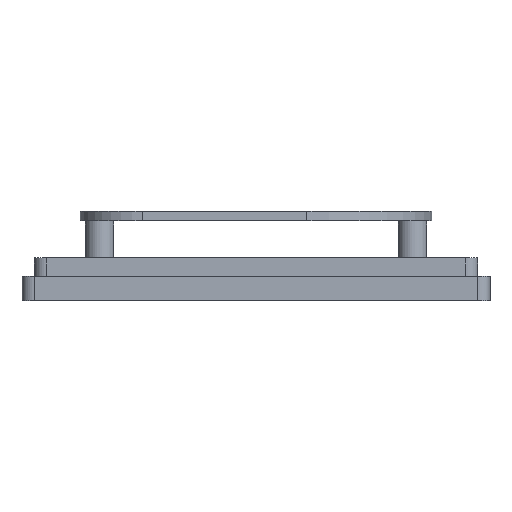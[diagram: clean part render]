
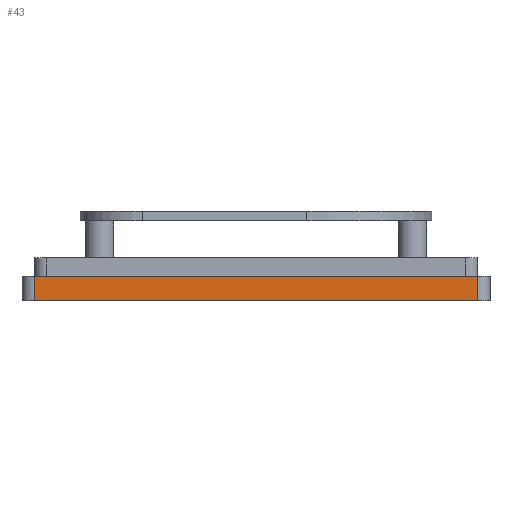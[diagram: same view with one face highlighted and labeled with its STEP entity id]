
A CAD part, left-side view. The second image highlights one B-rep face of the part: STEP entity #43.
In plain terms, the highlighted planar face has unit normal (-1, 0, 0).
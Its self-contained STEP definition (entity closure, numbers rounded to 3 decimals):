
#43 = ADVANCED_FACE('',(#44),#58,.F.);
#44 = FACE_BOUND('',#45,.F.);
#45 = EDGE_LOOP('',(#46,#81,#109,#137));
#46 = ORIENTED_EDGE('',*,*,#47,.F.);
#47 = EDGE_CURVE('',#48,#50,#52,.T.);
#48 = VERTEX_POINT('',#49);
#49 = CARTESIAN_POINT('',(-60.,-36.,4.));
#50 = VERTEX_POINT('',#51);
#51 = CARTESIAN_POINT('',(-60.,36.,4.));
#52 = SURFACE_CURVE('',#53,(#57,#69),.PCURVE_S1.);
#53 = LINE('',#54,#55);
#54 = CARTESIAN_POINT('',(-60.,-38.,4.));
#55 = VECTOR('',#56,1.);
#56 = DIRECTION('',(0.,1.,0.));
#57 = PCURVE('',#58,#63);
#58 = PLANE('',#59);
#59 = AXIS2_PLACEMENT_3D('',#60,#61,#62);
#60 = CARTESIAN_POINT('',(-60.,-38.,0.));
#61 = DIRECTION('',(1.,0.,0.));
#62 = DIRECTION('',(0.,0.,1.));
#63 = DEFINITIONAL_REPRESENTATION('',(#64),#68);
#64 = LINE('',#65,#66);
#65 = CARTESIAN_POINT('',(4.,0.));
#66 = VECTOR('',#67,1.);
#67 = DIRECTION('',(0.,-1.));
#68 = ( GEOMETRIC_REPRESENTATION_CONTEXT(2) 
PARAMETRIC_REPRESENTATION_CONTEXT() REPRESENTATION_CONTEXT('2D SPACE',''
  ) );
#69 = PCURVE('',#70,#75);
#70 = PLANE('',#71);
#71 = AXIS2_PLACEMENT_3D('',#72,#73,#74);
#72 = CARTESIAN_POINT('',(-60.,-38.,4.));
#73 = DIRECTION('',(0.,0.,1.));
#74 = DIRECTION('',(1.,0.,-0.));
#75 = DEFINITIONAL_REPRESENTATION('',(#76),#80);
#76 = LINE('',#77,#78);
#77 = CARTESIAN_POINT('',(0.,0.));
#78 = VECTOR('',#79,1.);
#79 = DIRECTION('',(0.,1.));
#80 = ( GEOMETRIC_REPRESENTATION_CONTEXT(2) 
PARAMETRIC_REPRESENTATION_CONTEXT() REPRESENTATION_CONTEXT('2D SPACE',''
  ) );
#81 = ORIENTED_EDGE('',*,*,#82,.F.);
#82 = EDGE_CURVE('',#83,#48,#85,.T.);
#83 = VERTEX_POINT('',#84);
#84 = CARTESIAN_POINT('',(-60.,-36.,0.));
#85 = SURFACE_CURVE('',#86,(#90,#97),.PCURVE_S1.);
#86 = LINE('',#87,#88);
#87 = CARTESIAN_POINT('',(-60.,-36.,0.));
#88 = VECTOR('',#89,1.);
#89 = DIRECTION('',(0.,0.,1.));
#90 = PCURVE('',#58,#91);
#91 = DEFINITIONAL_REPRESENTATION('',(#92),#96);
#92 = LINE('',#93,#94);
#93 = CARTESIAN_POINT('',(0.,-2.));
#94 = VECTOR('',#95,1.);
#95 = DIRECTION('',(1.,0.));
#96 = ( GEOMETRIC_REPRESENTATION_CONTEXT(2) 
PARAMETRIC_REPRESENTATION_CONTEXT() REPRESENTATION_CONTEXT('2D SPACE',''
  ) );
#97 = PCURVE('',#98,#103);
#98 = CYLINDRICAL_SURFACE('',#99,2.);
#99 = AXIS2_PLACEMENT_3D('',#100,#101,#102);
#100 = CARTESIAN_POINT('',(-58.,-36.,0.));
#101 = DIRECTION('',(0.,0.,1.));
#102 = DIRECTION('',(-1.,-0.,0.));
#103 = DEFINITIONAL_REPRESENTATION('',(#104),#108);
#104 = LINE('',#105,#106);
#105 = CARTESIAN_POINT('',(0.,0.));
#106 = VECTOR('',#107,1.);
#107 = DIRECTION('',(0.,1.));
#108 = ( GEOMETRIC_REPRESENTATION_CONTEXT(2) 
PARAMETRIC_REPRESENTATION_CONTEXT() REPRESENTATION_CONTEXT('2D SPACE',''
  ) );
#109 = ORIENTED_EDGE('',*,*,#110,.T.);
#110 = EDGE_CURVE('',#83,#111,#113,.T.);
#111 = VERTEX_POINT('',#112);
#112 = CARTESIAN_POINT('',(-60.,36.,0.));
#113 = SURFACE_CURVE('',#114,(#118,#125),.PCURVE_S1.);
#114 = LINE('',#115,#116);
#115 = CARTESIAN_POINT('',(-60.,-38.,0.));
#116 = VECTOR('',#117,1.);
#117 = DIRECTION('',(0.,1.,0.));
#118 = PCURVE('',#58,#119);
#119 = DEFINITIONAL_REPRESENTATION('',(#120),#124);
#120 = LINE('',#121,#122);
#121 = CARTESIAN_POINT('',(0.,0.));
#122 = VECTOR('',#123,1.);
#123 = DIRECTION('',(0.,-1.));
#124 = ( GEOMETRIC_REPRESENTATION_CONTEXT(2) 
PARAMETRIC_REPRESENTATION_CONTEXT() REPRESENTATION_CONTEXT('2D SPACE',''
  ) );
#125 = PCURVE('',#126,#131);
#126 = PLANE('',#127);
#127 = AXIS2_PLACEMENT_3D('',#128,#129,#130);
#128 = CARTESIAN_POINT('',(-60.,-38.,0.));
#129 = DIRECTION('',(0.,0.,1.));
#130 = DIRECTION('',(1.,0.,-0.));
#131 = DEFINITIONAL_REPRESENTATION('',(#132),#136);
#132 = LINE('',#133,#134);
#133 = CARTESIAN_POINT('',(0.,0.));
#134 = VECTOR('',#135,1.);
#135 = DIRECTION('',(0.,1.));
#136 = ( GEOMETRIC_REPRESENTATION_CONTEXT(2) 
PARAMETRIC_REPRESENTATION_CONTEXT() REPRESENTATION_CONTEXT('2D SPACE',''
  ) );
#137 = ORIENTED_EDGE('',*,*,#138,.T.);
#138 = EDGE_CURVE('',#111,#50,#139,.T.);
#139 = SURFACE_CURVE('',#140,(#144,#151),.PCURVE_S1.);
#140 = LINE('',#141,#142);
#141 = CARTESIAN_POINT('',(-60.,36.,0.));
#142 = VECTOR('',#143,1.);
#143 = DIRECTION('',(0.,0.,1.));
#144 = PCURVE('',#58,#145);
#145 = DEFINITIONAL_REPRESENTATION('',(#146),#150);
#146 = LINE('',#147,#148);
#147 = CARTESIAN_POINT('',(0.,-74.));
#148 = VECTOR('',#149,1.);
#149 = DIRECTION('',(1.,0.));
#150 = ( GEOMETRIC_REPRESENTATION_CONTEXT(2) 
PARAMETRIC_REPRESENTATION_CONTEXT() REPRESENTATION_CONTEXT('2D SPACE',''
  ) );
#151 = PCURVE('',#152,#157);
#152 = CYLINDRICAL_SURFACE('',#153,2.);
#153 = AXIS2_PLACEMENT_3D('',#154,#155,#156);
#154 = CARTESIAN_POINT('',(-58.,36.,0.));
#155 = DIRECTION('',(0.,0.,1.));
#156 = DIRECTION('',(-1.,-0.,0.));
#157 = DEFINITIONAL_REPRESENTATION('',(#158),#162);
#158 = LINE('',#159,#160);
#159 = CARTESIAN_POINT('',(6.283,0.));
#160 = VECTOR('',#161,1.);
#161 = DIRECTION('',(-0.,1.));
#162 = ( GEOMETRIC_REPRESENTATION_CONTEXT(2) 
PARAMETRIC_REPRESENTATION_CONTEXT() REPRESENTATION_CONTEXT('2D SPACE',''
  ) );
